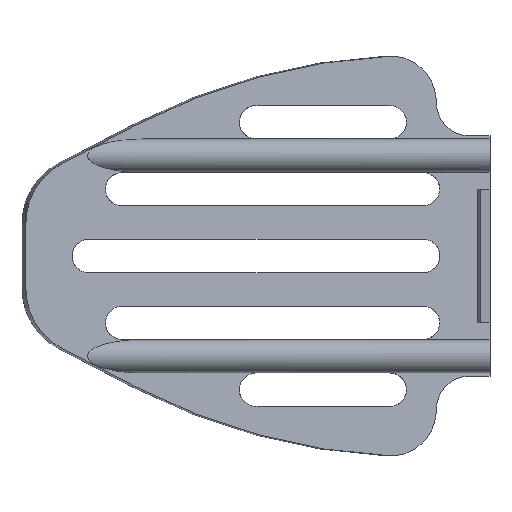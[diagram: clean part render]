
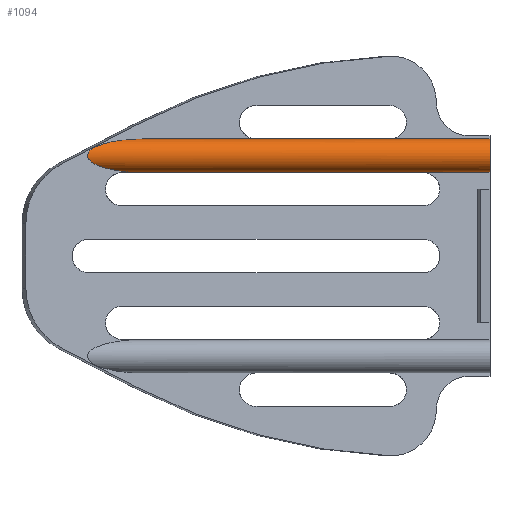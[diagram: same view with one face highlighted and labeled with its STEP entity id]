
A CAD part, left-side view. The second image highlights one B-rep face of the part: STEP entity #1094.
In plain terms, the highlighted cylindrical face has radius 2.5 mm (diameter 5 mm), a partial arc.
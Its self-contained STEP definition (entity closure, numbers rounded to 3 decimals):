
#72 = AXIS2_PLACEMENT_3D ( 'NONE', #822, #1359, #386 ) ;
#85 = CARTESIAN_POINT ( 'NONE',  ( 8., 52.035, 17.5 ) ) ;
#92 =( BOUNDED_CURVE ( )  B_SPLINE_CURVE ( 3, ( #1038, #665, #929, #382 ),
 .UNSPECIFIED., .F., .T. ) 
 B_SPLINE_CURVE_WITH_KNOTS ( ( 4, 4 ),
 ( 1.571, 4.712 ),
 .UNSPECIFIED. ) 
 CURVE ( )  GEOMETRIC_REPRESENTATION_ITEM ( )  RATIONAL_B_SPLINE_CURVE ( ( 1., 0.333, 0.333, 1. ) ) 
 REPRESENTATION_ITEM ( '' )  );
#103 = VERTEX_POINT ( 'NONE', #354 ) ;
#107 = VERTEX_POINT ( 'NONE', #85 ) ;
#229 = CARTESIAN_POINT ( 'NONE',  ( 8., 0., 12.5 ) ) ;
#354 = CARTESIAN_POINT ( 'NONE',  ( 8., 0., 17.5 ) ) ;
#382 = CARTESIAN_POINT ( 'NONE',  ( 8., 52.035, 12.5 ) ) ;
#386 = DIRECTION ( 'NONE',  ( 0., 0., -1. ) ) ;
#392 = VECTOR ( 'NONE', #906, 1000. ) ;
#494 = LINE ( 'NONE', #1599, #392 ) ;
#504 = ORIENTED_EDGE ( 'NONE', *, *, #1564, .T. ) ;
#665 = CARTESIAN_POINT ( 'NONE',  ( 3., 68.389, 17.5 ) ) ;
#737 = VERTEX_POINT ( 'NONE', #1009 ) ;
#780 = EDGE_CURVE ( 'NONE', #1263, #103, #1417, .T. ) ;
#818 = LINE ( 'NONE', #1660, #1393 ) ;
#822 = CARTESIAN_POINT ( 'NONE',  ( 8., 70.002, 15. ) ) ;
#906 = DIRECTION ( 'NONE',  ( 0., -1., 0. ) ) ;
#929 = CARTESIAN_POINT ( 'NONE',  ( 3., 68.389, 12.5 ) ) ;
#948 = CYLINDRICAL_SURFACE ( 'NONE', #72, 2.5 ) ;
#1009 = CARTESIAN_POINT ( 'NONE',  ( 8., 52.035, 12.5 ) ) ;
#1038 = CARTESIAN_POINT ( 'NONE',  ( 8., 52.035, 17.5 ) ) ;
#1094 = ADVANCED_FACE ( 'NONE', ( #1629 ), #948, .T. ) ;
#1109 = DIRECTION ( 'NONE',  ( 0., 1., 0. ) ) ;
#1115 = ORIENTED_EDGE ( 'NONE', *, *, #780, .T. ) ;
#1119 = CARTESIAN_POINT ( 'NONE',  ( 8., 0., 15. ) ) ;
#1146 = DIRECTION ( 'NONE',  ( 0., 0., 1. ) ) ;
#1207 = ORIENTED_EDGE ( 'NONE', *, *, #1467, .F. ) ;
#1262 = ORIENTED_EDGE ( 'NONE', *, *, #1305, .T. ) ;
#1263 = VERTEX_POINT ( 'NONE', #229 ) ;
#1305 = EDGE_CURVE ( 'NONE', #107, #737, #92, .T. ) ;
#1359 = DIRECTION ( 'NONE',  ( 0., -1., 0. ) ) ;
#1393 = VECTOR ( 'NONE', #1525, 1000. ) ;
#1411 = EDGE_LOOP ( 'NONE', ( #1207, #1262, #504, #1115 ) ) ;
#1417 = CIRCLE ( 'NONE', #1474, 2.5 ) ;
#1467 = EDGE_CURVE ( 'NONE', #107, #103, #818, .T. ) ;
#1474 = AXIS2_PLACEMENT_3D ( 'NONE', #1119, #1109, #1146 ) ;
#1525 = DIRECTION ( 'NONE',  ( 0., -1., 0. ) ) ;
#1564 = EDGE_CURVE ( 'NONE', #737, #1263, #494, .T. ) ;
#1599 = CARTESIAN_POINT ( 'NONE',  ( 8., 70.002, 12.5 ) ) ;
#1629 = FACE_OUTER_BOUND ( 'NONE', #1411, .T. ) ;
#1660 = CARTESIAN_POINT ( 'NONE',  ( 8., 70.002, 17.5 ) ) ;
